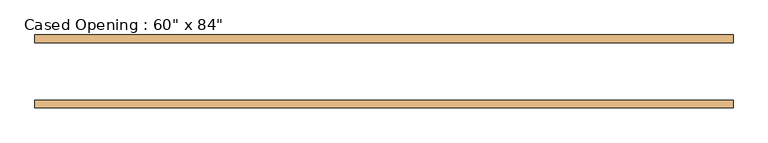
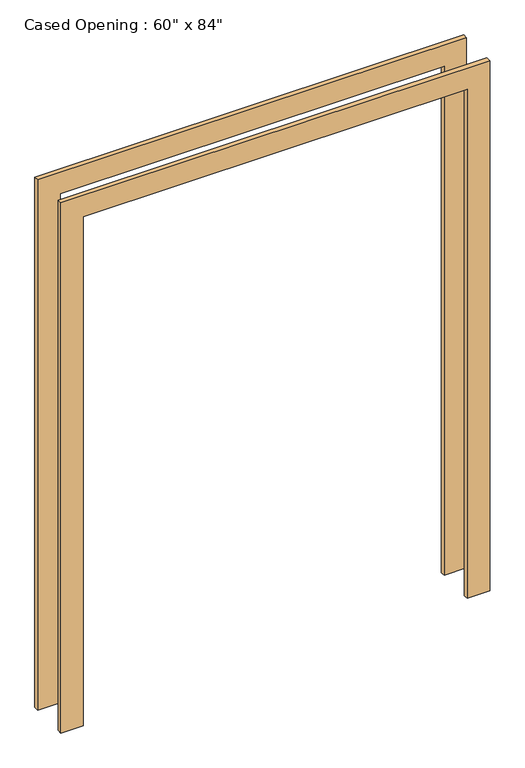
"""IFC4 building model written with IfcOpenShell, lengths in millimetres: door geometry."""

from ifc_helpers import new_model, si_unit, frame, origin, place, context, project, spatial, polyline, outline, extrude, source, transform, mapped, element, save


def door_df85aeb6(model_context):
    return source(origin(), model_context, "Body", "SweptSolid", [
        extrude(outline(polyline([(2222.5, -850.9), (0.0, -850.9), (0.0, -762.0), (2133.6, -762.0), (2133.6, 762.0), (0.0, 762.0), (0.0, 850.9), (2222.5, 850.9), (2222.5, -850.9)])), frame((0.0, 69.85, 0.0), z_axis=(0.0, 1.0, 0.0), x_axis=(0.0, 0.0, 1.0)), (0.0, 0.0, 1.0), 19.05),
        extrude(outline(polyline([(0.0, -850.9), (0.0, -762.0), (2133.6, -762.0), (2133.6, 762.0), (0.0, 762.0), (0.0, 850.9), (2222.5, 850.9), (2222.5, -850.9), (0.0, -850.9)])), frame((0.0, -88.9, 0.0), z_axis=(0.0, 1.0, 0.0), x_axis=(0.0, 0.0, 1.0)), (0.0, 0.0, 1.0), 19.05),
    ])


if __name__ == "__main__":
    model = new_model("IFC4")
    model_context = context("Model", 3, world=origin())
    ifc_project = project(units=[si_unit("LENGTHUNIT", "METRE", prefix="MILLI")], contexts=[model_context])
    site = spatial("IfcSite", under=ifc_project)
    building = spatial("IfcBuilding", under=site)
    placement = place(None, origin())
    door_shape = door_df85aeb6(model_context)
    element("IfcDoor", 1, ObjectType="Cased Opening : 60\" x 84\"", at=placement, inside=building, context=model_context, shape_type="MappedRepresentation", body=[
        mapped(door_shape, transform((0.0, 0.0, 0.0), x_axis=(1.0, 0.0, 0.0), y_axis=(0.0, 1.0, 0.0), z_axis=(0.0, 0.0, 1.0))),
    ])
    save(model, "model.ifc")
